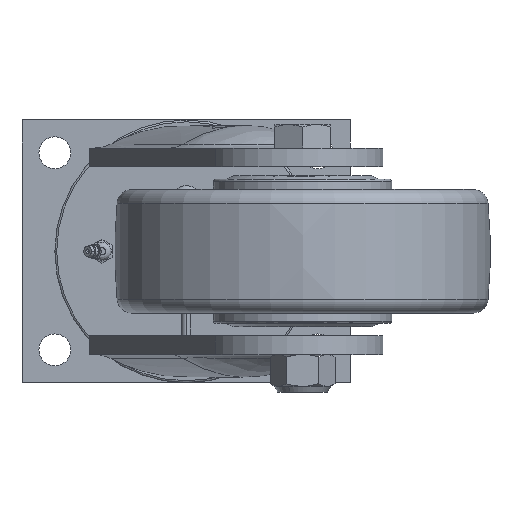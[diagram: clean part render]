
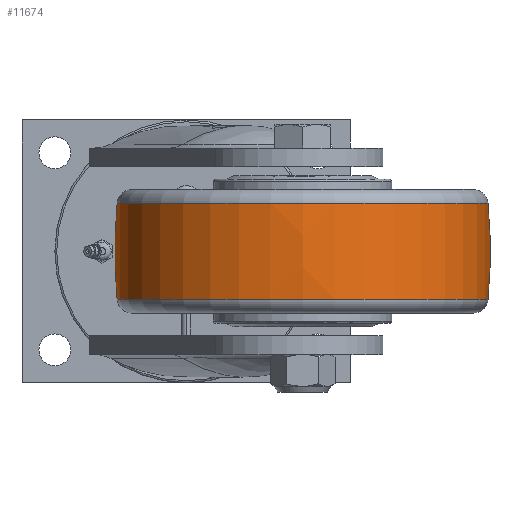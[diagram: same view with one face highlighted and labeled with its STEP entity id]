
A CAD part, front view. The second image highlights one B-rep face of the part: STEP entity #11674.
In plain terms, the highlighted free-form (B-spline) face has degree [3, 3] with [7, 4] control points.
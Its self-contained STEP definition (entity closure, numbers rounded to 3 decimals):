
#8365=CARTESIAN_POINT('',(244.,-180.,0.));
#8366=DIRECTION('',(0.,1.,0.));
#8367=DIRECTION('',(-0.996,0.,-0.091));
#8368=AXIS2_PLACEMENT_3D('',#8365,#8366,#8367);
#8370=CARTESIAN_POINT('',(-120.,-180.,0.));
#8371=DIRECTION('',(0.,-1.,0.));
#8372=DIRECTION('',(0.996,0.,-0.091));
#8373=AXIS2_PLACEMENT_3D('',#8370,#8371,#8372);
#8375=CARTESIAN_POINT('',(62.,-180.,-25.627));
#8376=DIRECTION('',(0.,0.,1.));
#8377=DIRECTION('',(-1.,0.,0.));
#8378=AXIS2_PLACEMENT_3D('',#8375,#8376,#8377);
#8390=CARTESIAN_POINT('',(62.,-180.,25.627));
#8391=DIRECTION('',(0.,0.,1.));
#8392=DIRECTION('',(-1.,0.,0.));
#8393=AXIS2_PLACEMENT_3D('',#8390,#8391,#8392);
#11222=CARTESIAN_POINT('',(-36.833,-180.,-25.627));
#11223=VERTEX_POINT('',#11222);
#11224=CARTESIAN_POINT('',(-36.833,-180.,25.627));
#11225=VERTEX_POINT('',#11224);
#11234=CARTESIAN_POINT('',(160.833,-180.,-25.627));
#11235=VERTEX_POINT('',#11234);
#11236=CARTESIAN_POINT('',(160.833,-180.,25.627));
#11237=VERTEX_POINT('',#11236);
#11638=CARTESIAN_POINT('',(160.543,-173.8,
26.649));
#11639=CARTESIAN_POINT('',(162.224,-173.694,
8.909));
#11640=CARTESIAN_POINT('',(162.224,-173.694,
-8.909));
#11641=CARTESIAN_POINT('',(160.543,-173.8,
-26.649));
#11642=CARTESIAN_POINT('',(164.359,-234.444,
26.649));
#11643=CARTESIAN_POINT('',(166.104,-235.372,
8.909));
#11644=CARTESIAN_POINT('',(166.104,-235.372,
-8.909));
#11645=CARTESIAN_POINT('',(164.359,-234.444,
-26.649));
#11646=CARTESIAN_POINT('',(122.763,-278.738,
26.649));
#11647=CARTESIAN_POINT('',(123.8,-280.422,
8.909));
#11648=CARTESIAN_POINT('',(123.8,-280.422,
-8.909));
#11649=CARTESIAN_POINT('',(122.763,-278.738,
-26.649));
#11650=CARTESIAN_POINT('',(62.,-278.738,26.649));
#11651=CARTESIAN_POINT('',(62.,-280.422,8.909));
#11652=CARTESIAN_POINT('',(62.,-280.422,-8.909));
#11653=CARTESIAN_POINT('',(62.,-278.738,-26.649));
#11654=CARTESIAN_POINT('',(1.237,-278.738,
26.649));
#11655=CARTESIAN_POINT('',(0.2,-280.422,
8.909));
#11656=CARTESIAN_POINT('',(0.2,-280.422,
-8.909));
#11657=CARTESIAN_POINT('',(1.237,-278.738,
-26.649));
#11658=CARTESIAN_POINT('',(-40.359,-234.444,
26.649));
#11659=CARTESIAN_POINT('',(-42.104,-235.372,
8.909));
#11660=CARTESIAN_POINT('',(-42.104,-235.372,
-8.909));
#11661=CARTESIAN_POINT('',(-40.359,-234.444,
-26.649));
#11662=CARTESIAN_POINT('',(-36.543,-173.8,
26.649));
#11663=CARTESIAN_POINT('',(-38.224,-173.694,
8.909));
#11664=CARTESIAN_POINT('',(-38.224,-173.694,
-8.909));
#11665=CARTESIAN_POINT('',(-36.543,-173.8,
-26.649));
#11666=(BOUNDED_SURFACE()B_SPLINE_SURFACE(3,3,((#11638,#11639,#11640,#11641),(
#11642,#11643,#11644,#11645),(#11646,#11647,#11648,#11649),(#11650,#11651,
#11652,#11653),(#11654,#11655,#11656,#11657),(#11658,#11659,#11660,#11661),(
#11662,#11663,#11664,#11665)),.UNSPECIFIED.,.F.,.F.,.F.)B_SPLINE_SURFACE_WITH_KNOTS((4,3,4),(4,4),(0.,1.,2.),(0.,1.),.UNSPECIFIED.)GEOMETRIC_REPRESENTATION_ITEM()RATIONAL_B_SPLINE_SURFACE(((1.19,1.186,
1.186,1.19),(0.94,0.937,
0.937,0.94),(0.94,0.937,
0.937,0.94),(1.19,1.186,
1.186,1.19),(0.94,0.937,
0.937,0.94),(0.94,0.937,
0.937,0.94),(1.19,1.186,
1.186,1.19)))REPRESENTATION_ITEM('')SURFACE());
#11667=ORIENTED_EDGE('',*,*,#11621,.T.);
#11669=ORIENTED_EDGE('',*,*,#11668,.T.);
#11670=ORIENTED_EDGE('',*,*,#11624,.F.);
#11671=ORIENTED_EDGE('',*,*,#11557,.F.);
#11672=EDGE_LOOP('',(#11667,#11669,#11670,#11671));
#11673=FACE_OUTER_BOUND('',#11672,.F.);
#8369=CIRCLE('',#8368,282.);
#8374=CIRCLE('',#8373,282.);
#8379=CIRCLE('',#8378,98.833);
#8394=CIRCLE('',#8393,98.833);
#11557=EDGE_CURVE('',#11223,#11235,#8379,.T.);
#11621=EDGE_CURVE('',#11223,#11225,#8369,.T.);
#11624=EDGE_CURVE('',#11235,#11237,#8374,.T.);
#11668=EDGE_CURVE('',#11225,#11237,#8394,.T.);
#11674=ADVANCED_FACE('',(#11673),#11666,.T.);
